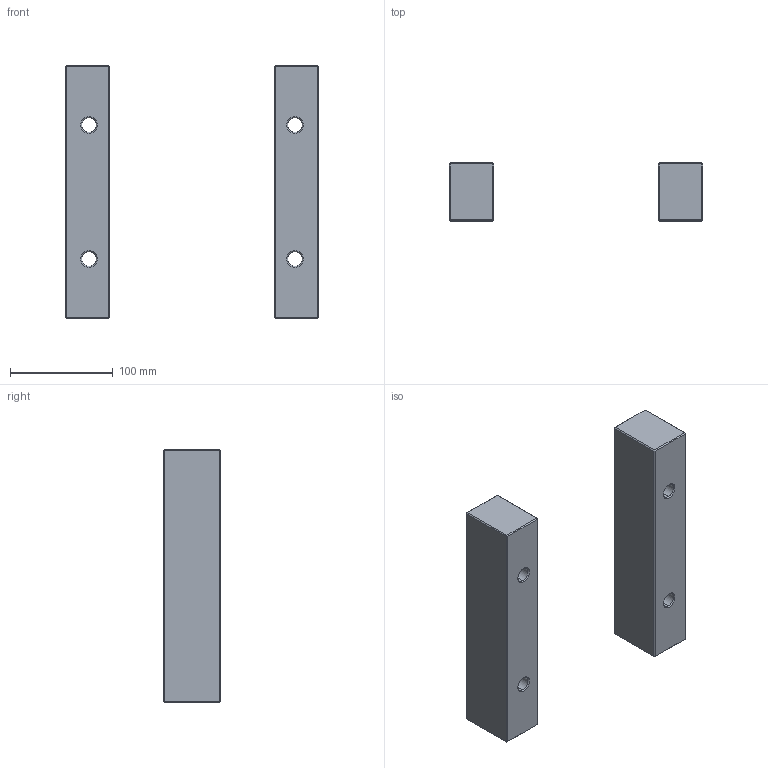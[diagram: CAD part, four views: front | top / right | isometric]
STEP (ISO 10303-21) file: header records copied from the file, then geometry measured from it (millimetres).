
FILE_DESCRIPTION (( 'STEP AP214' ), '1' );
FILE_NAME ('ESP-246X246x56.STEP', '2020-04-14T07:54:04', ( 'August' ), ( '' ), 'SwSTEP 2.0', 'SolidWorks 2018', '' );
FILE_SCHEMA (( 'AUTOMOTIVE_DESIGN' ));
Length unit declared in the file: millimetre
Products named in the file (1): ESP-246X246x56
Bounding box: 246 x 56 x 246 mm (x, y, z)
Volume: 1148700.2 mm3; surface area: 113850 mm2
Topology: 2 solids, 2 shells, 76 faces, 152 edges, 80 vertices
Faces by surface type: plane 52, cone 16, cylinder 8
Entity records: 1935 total; most frequent: DIRECTION 338, CARTESIAN_POINT 309, ORIENTED_EDGE 304, EDGE_CURVE 152, LINE 120, VECTOR 120, AXIS2_PLACEMENT_3D 109, EDGE_LOOP 84
